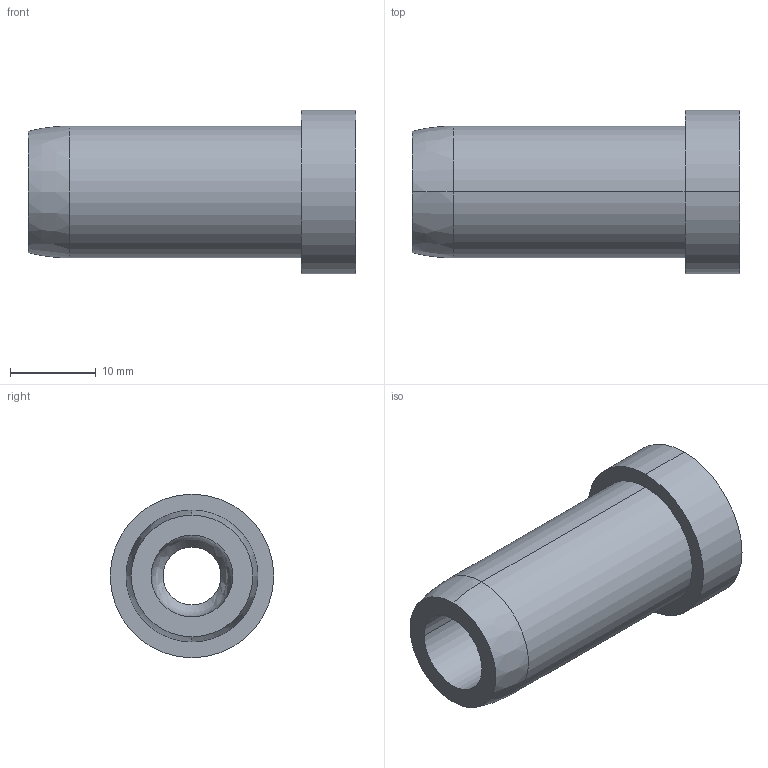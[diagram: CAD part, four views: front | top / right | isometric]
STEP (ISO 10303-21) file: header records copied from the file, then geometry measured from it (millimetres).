
FILE_DESCRIPTION (( 'STEP AP203' ), '1' );
FILE_NAME ('FDPCK-MC.625-S-ENDTHRD.step', '2019-09-11T18:37:04', ( 'ydmin' ), ( '' ), 'SwSTEP 2.0', 'SolidWorks 2017', '' );
FILE_SCHEMA (( 'CONFIG_CONTROL_DESIGN' ));
Length unit declared in the file: inch
Products named in the file (1): FDPCK-MC.625-S-ENDTHRD
Bounding box: 38.1 x 19.05 x 19.05 mm (x, y, z)
Volume: 5252.9 mm3; surface area: 3416.7 mm2
Topology: 1 solids, 1 shells, 14 faces, 30 edges, 18 vertices
Faces by surface type: cylinder 8, bspline 3, plane 3
Entity records: 492 total; most frequent: CARTESIAN_POINT 106, DIRECTION 72, ORIENTED_EDGE 56, AXIS2_PLACEMENT_3D 32, EDGE_CURVE 28, CIRCLE 20, VERTEX_POINT 18, EDGE_LOOP 18
